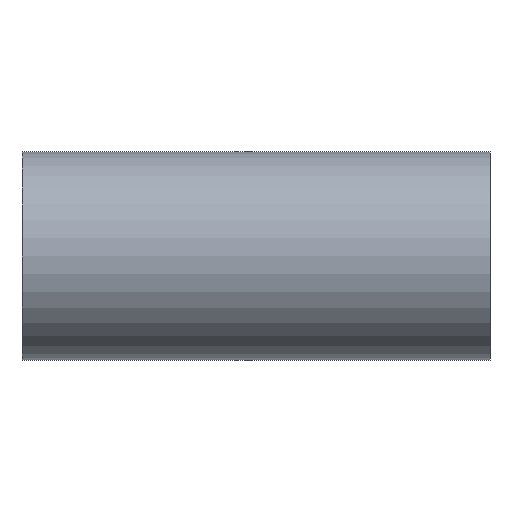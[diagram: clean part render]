
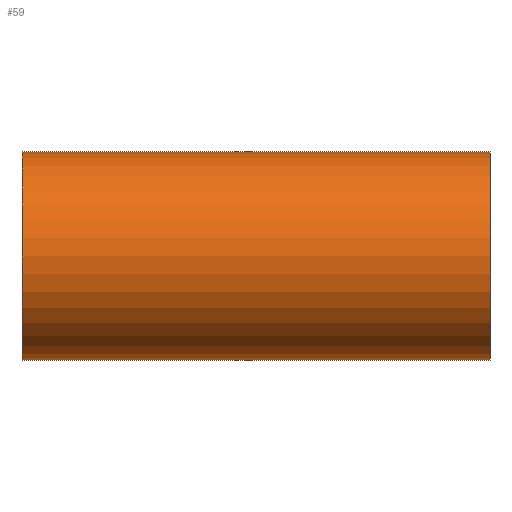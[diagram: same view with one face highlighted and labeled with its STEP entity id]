
A CAD part, front view. The second image highlights one B-rep face of the part: STEP entity #59.
In plain terms, the highlighted cylindrical face has radius 38.1 mm (diameter 76.2 mm), a partial arc.
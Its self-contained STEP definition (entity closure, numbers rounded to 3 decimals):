
#26 = VERTEX_POINT ( 'NONE', #286 ) ;
#30 = EDGE_CURVE ( 'NONE', #546, #26, #123, .T. ) ;
#59 = ADVANCED_FACE ( 'NONE', ( #155 ), #167, .T. ) ;
#63 = CARTESIAN_POINT ( 'NONE',  ( -85.7, 0., -38.1 ) ) ;
#91 = AXIS2_PLACEMENT_3D ( 'NONE', #197, #111, #404 ) ;
#103 = DIRECTION ( 'NONE',  ( 1., 0., 0. ) ) ;
#107 = AXIS2_PLACEMENT_3D ( 'NONE', #410, #400, #258 ) ;
#111 = DIRECTION ( 'NONE',  ( -1., 0., 0. ) ) ;
#123 = CIRCLE ( 'NONE', #199, 38.1 ) ;
#155 = FACE_OUTER_BOUND ( 'NONE', #196, .T. ) ;
#167 = CYLINDRICAL_SURFACE ( 'NONE', #107, 38.1 ) ;
#196 = EDGE_LOOP ( 'NONE', ( #552, #508, #313, #259 ) ) ;
#197 = CARTESIAN_POINT ( 'NONE',  ( 85.7, 0., 0. ) ) ;
#199 = AXIS2_PLACEMENT_3D ( 'NONE', #204, #406, #431 ) ;
#204 = CARTESIAN_POINT ( 'NONE',  ( -85.7, 0., 0. ) ) ;
#219 = EDGE_CURVE ( 'NONE', #26, #298, #250, .T. ) ;
#236 = VECTOR ( 'NONE', #103, 1000. ) ;
#246 = LINE ( 'NONE', #618, #293 ) ;
#250 = LINE ( 'NONE', #63, #236 ) ;
#258 = DIRECTION ( 'NONE',  ( 0., 0., -1. ) ) ;
#259 = ORIENTED_EDGE ( 'NONE', *, *, #344, .T. ) ;
#264 = VERTEX_POINT ( 'NONE', #363 ) ;
#266 = DIRECTION ( 'NONE',  ( 1., 0., 0. ) ) ;
#286 = CARTESIAN_POINT ( 'NONE',  ( -85.7, 0., -38.1 ) ) ;
#293 = VECTOR ( 'NONE', #266, 1000. ) ;
#298 = VERTEX_POINT ( 'NONE', #407 ) ;
#313 = ORIENTED_EDGE ( 'NONE', *, *, #219, .T. ) ;
#344 = EDGE_CURVE ( 'NONE', #298, #264, #359, .T. ) ;
#359 = CIRCLE ( 'NONE', #91, 38.1 ) ;
#363 = CARTESIAN_POINT ( 'NONE',  ( 85.7, 0., 38.1 ) ) ;
#370 = CARTESIAN_POINT ( 'NONE',  ( -85.7, 0., 38.1 ) ) ;
#400 = DIRECTION ( 'NONE',  ( 1., 0., 0. ) ) ;
#404 = DIRECTION ( 'NONE',  ( 0., 0., -1. ) ) ;
#406 = DIRECTION ( 'NONE',  ( 1., 0., 0. ) ) ;
#407 = CARTESIAN_POINT ( 'NONE',  ( 85.7, 0., -38.1 ) ) ;
#410 = CARTESIAN_POINT ( 'NONE',  ( -85.7, 0., 0. ) ) ;
#431 = DIRECTION ( 'NONE',  ( 0., 0., -1. ) ) ;
#460 = EDGE_CURVE ( 'NONE', #546, #264, #246, .T. ) ;
#508 = ORIENTED_EDGE ( 'NONE', *, *, #30, .T. ) ;
#546 = VERTEX_POINT ( 'NONE', #370 ) ;
#552 = ORIENTED_EDGE ( 'NONE', *, *, #460, .F. ) ;
#618 = CARTESIAN_POINT ( 'NONE',  ( -85.7, 0., 38.1 ) ) ;
